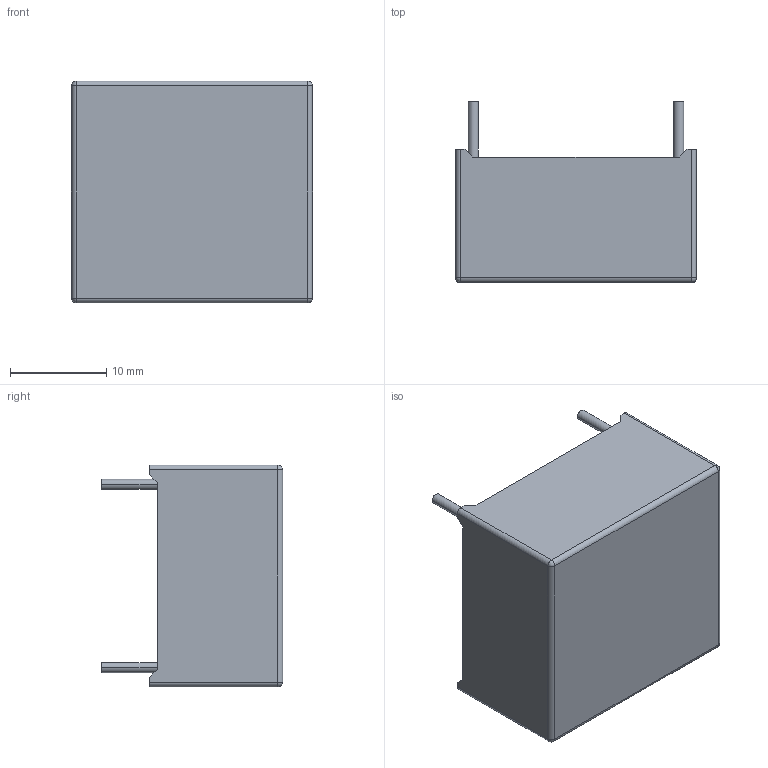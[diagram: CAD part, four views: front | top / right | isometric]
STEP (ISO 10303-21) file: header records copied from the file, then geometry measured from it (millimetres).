
FILE_DESCRIPTION((''),'2;1');
FILE_NAME('TFMOV20S621L-IT-5-001','2020-08-11T',('SET-01114'),(''),'PRO/ENGINEER BY PARAMETRIC TECHNOLOGY CORPORATION, 2012310','PRO/ENGINEER BY PARAMETRIC TECHNOLOGY CORPORATION, 2012310','');
FILE_SCHEMA(('CONFIG_CONTROL_DESIGN','SHAPE_APPEARANCE_LAYERS_GROUPS'));
Length unit declared in the file: millimetre
Products named in the file (1): TFMOV20S621L-IT-5-001
Bounding box: 25 x 18.8 x 23 mm (x, y, z)
Volume: 2192.6 mm3; surface area: 4372.8 mm2
Topology: 1 solids, 2 shells, 105 faces, 274 edges, 168 vertices
Faces by surface type: plane 59, cylinder 30, sphere 16
Entity records: 3196 total; most frequent: CARTESIAN_POINT 588, DIRECTION 544, ORIENTED_EDGE 516, EDGE_CURVE 258, AXIS2_PLACEMENT_3D 185, VECTOR 174, LINE 174, VERTEX_POINT 168
